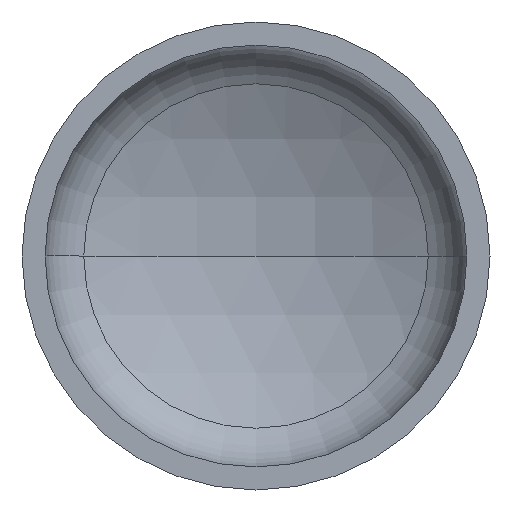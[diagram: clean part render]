
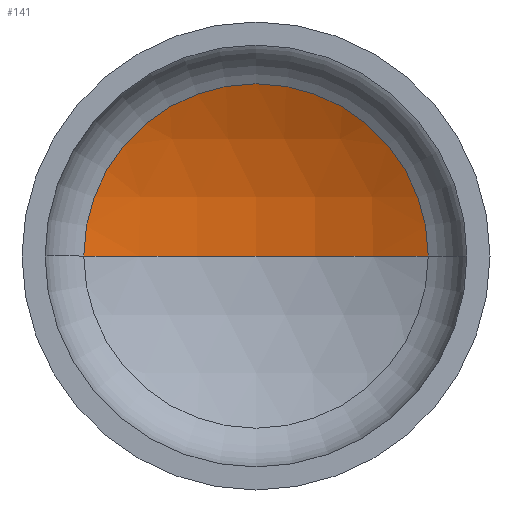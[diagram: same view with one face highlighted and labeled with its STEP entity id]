
A CAD part, front view. The second image highlights one B-rep face of the part: STEP entity #141.
In plain terms, the highlighted spherical face has radius 406 mm.
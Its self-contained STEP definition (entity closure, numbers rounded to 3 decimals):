
#1 = DIRECTION ( 'NONE',  ( -1., 0., 0. ) ) ;
#12 = AXIS2_PLACEMENT_3D ( 'NONE', #176, #183, #243 ) ;
#14 = AXIS2_PLACEMENT_3D ( 'NONE', #357, #270, #185 ) ;
#19 = VERTEX_POINT ( 'NONE', #269 ) ;
#20 = ORIENTED_EDGE ( 'NONE', *, *, #337, .F. ) ;
#52 = AXIS2_PLACEMENT_3D ( 'NONE', #400, #179, #149 ) ;
#67 = AXIS2_PLACEMENT_3D ( 'NONE', #319, #206, #1 ) ;
#87 = VERTEX_POINT ( 'NONE', #251 ) ;
#114 = VERTEX_POINT ( 'NONE', #331 ) ;
#138 = ORIENTED_EDGE ( 'NONE', *, *, #351, .T. ) ;
#141 = ADVANCED_FACE ( 'NONE', ( #232 ), #408, .F. ) ;
#149 = DIRECTION ( 'NONE',  ( 1., 0., 0. ) ) ;
#150 = ORIENTED_EDGE ( 'NONE', *, *, #349, .T. ) ;
#176 = CARTESIAN_POINT ( 'NONE',  ( 0., -216.175, 0. ) ) ;
#179 = DIRECTION ( 'NONE',  ( 0., 0., 1. ) ) ;
#183 = DIRECTION ( 'NONE',  ( 0., 0., -1. ) ) ;
#185 = DIRECTION ( 'NONE',  ( 1., 0., 0. ) ) ;
#198 = EDGE_LOOP ( 'NONE', ( #20, #138, #150 ) ) ;
#206 = DIRECTION ( 'NONE',  ( 0., 0., -1. ) ) ;
#232 = FACE_OUTER_BOUND ( 'NONE', #198, .T. ) ;
#243 = DIRECTION ( 'NONE',  ( -1., 0., 0. ) ) ;
#251 = CARTESIAN_POINT ( 'NONE',  ( 186.909, 144.243, 0. ) ) ;
#269 = CARTESIAN_POINT ( 'NONE',  ( 0., 189.825, 0. ) ) ;
#270 = DIRECTION ( 'NONE',  ( 0., -1., 0. ) ) ;
#319 = CARTESIAN_POINT ( 'NONE',  ( 0., -216.175, 0. ) ) ;
#323 = CIRCLE ( 'NONE', #14, 186.909 ) ;
#331 = CARTESIAN_POINT ( 'NONE',  ( -186.909, 144.243, 0. ) ) ;
#337 = EDGE_CURVE ( 'NONE', #19, #114, #348, .T. ) ;
#348 = CIRCLE ( 'NONE', #52, 406. ) ;
#349 = EDGE_CURVE ( 'NONE', #87, #114, #323, .T. ) ;
#351 = EDGE_CURVE ( 'NONE', #19, #87, #386, .T. ) ;
#357 = CARTESIAN_POINT ( 'NONE',  ( 0., 144.243, 0. ) ) ;
#386 = CIRCLE ( 'NONE', #12, 406. ) ;
#400 = CARTESIAN_POINT ( 'NONE',  ( 0., -216.175, 0. ) ) ;
#408 = SPHERICAL_SURFACE ( 'NONE', #67, 406. ) ;
